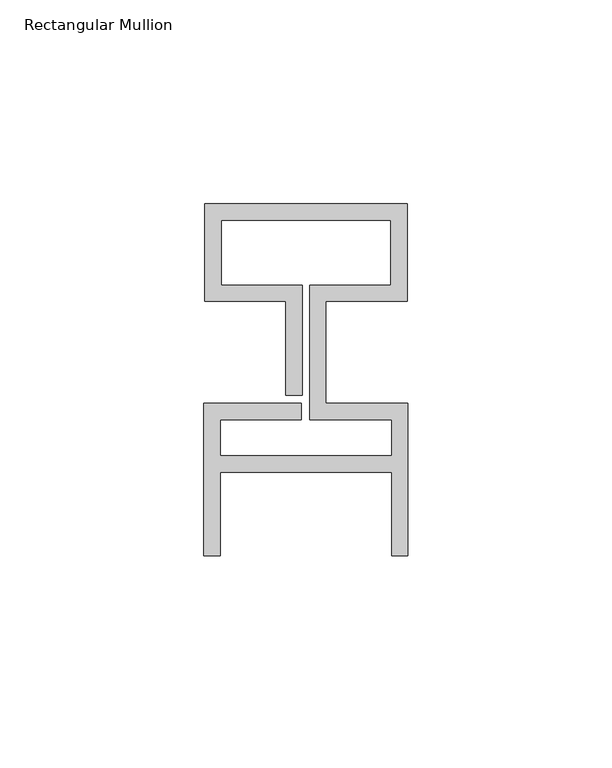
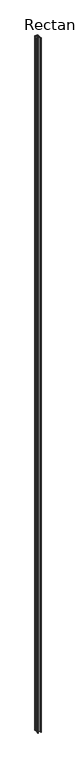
"""IFC4 building model written with IfcOpenShell, lengths in millimetres: member geometry, Rectangular Mullion : Reynaers_CW-50_Mullion-Transom_Horizontal_23.9mm_Facecap-03."""

from ifc_helpers import new_model, si_unit, frame, origin, place, context, project, spatial, polyline, outline, extrude, source, transform, mapped, element, save


def rectangular_mullion_f86160bf(model_context):
    return source(origin(), model_context, "Body", "SweptSolid", [
        extrude(outline(polyline([(-24.8004059, 36.4), (24.8004059, 36.4), (24.8004059, 12.5), (4.9004059, 12.5), (4.9004059, -12.5), (24.994845, -12.5), (24.994845, -49.8), (20.994845, -49.8), (20.994845, -29.3268728), (-20.994845, -29.3268728), (-20.994845, -49.8), (-24.994845, -49.8), (-24.994845, -12.5), (-1.0995941, -12.5), (-1.0995941, -16.5), (-20.994845, -16.5), (-20.994845, -25.3268728), (20.994845, -25.3268728), (20.994845, -16.5), (0.9004059, -16.5), (0.9004059, 16.5), (20.8004059, 16.5), (20.8004059, 32.4), (-20.8004059, 32.4), (-20.8004059, 16.5), (-0.9004059, 16.5), (-0.9004059, -10.5), (-4.9004059, -10.5), (-4.9004059, 12.5), (-24.8004059, 12.5), (-24.8004059, 36.4)])), frame((0.0, 0.0, -12000.0), z_axis=(0.0, 0.0, 1.0), x_axis=(1.0, 0.0, 0.0)), (0.0, 0.0, 1.0), 12000.0),
    ])


if __name__ == "__main__":
    model = new_model("IFC4")
    model_context = context("Model", 3, world=origin())
    ifc_project = project(units=[si_unit("LENGTHUNIT", "METRE", prefix="MILLI")], contexts=[model_context])
    site = spatial("IfcSite", under=ifc_project)
    building = spatial("IfcBuilding", under=site)
    placement = place(None, origin())
    rectangular_mullion_shape = rectangular_mullion_f86160bf(model_context)
    element("IfcMember", 1, ObjectType="Rectangular Mullion : Reynaers_CW-50_Mullion-Transom_Horizontal_23.9mm_Facecap-03", at=placement, inside=building, context=model_context, shape_type="MappedRepresentation", body=[
        mapped(rectangular_mullion_shape, transform((0.0, 0.0, 0.0), x_axis=(1.0, 0.0, 0.0), y_axis=(0.0, 1.0, 0.0), z_axis=(0.0, 0.0, 1.0))),
    ])
    save(model, "model.ifc")
